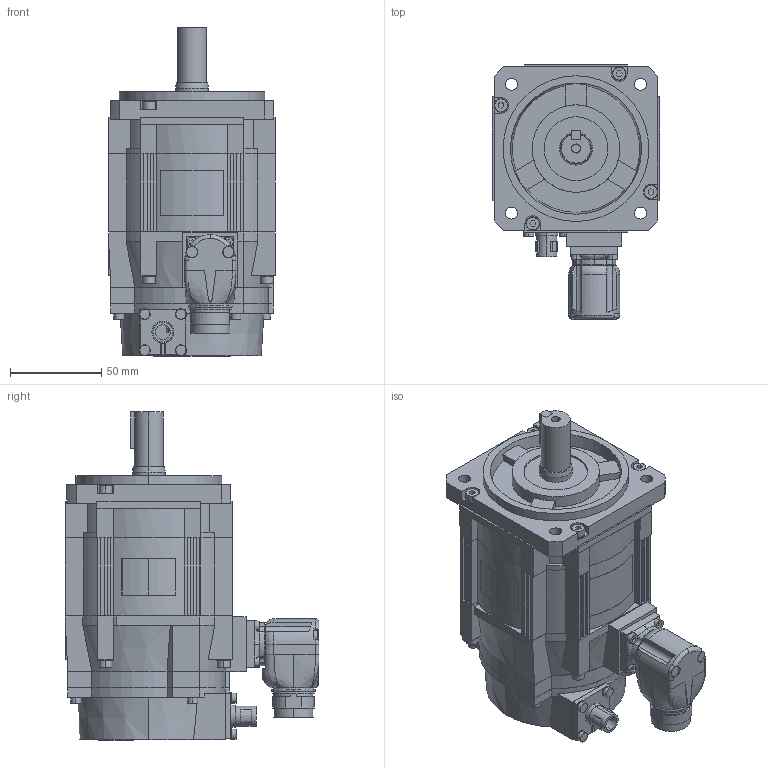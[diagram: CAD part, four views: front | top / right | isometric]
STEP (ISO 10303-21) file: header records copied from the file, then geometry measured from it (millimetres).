
FILE_DESCRIPTION (( 'STEP AP203' ), '1' );
FILE_NAME ('sgm7g_05d_r6f.STEP', '2016-08-20T16:48:33', ( '安川電機' ), ( 'Yaskawa' ), 'SwSTEP 2.0', 'SolidWorks 2006303', '' );
FILE_SCHEMA (( 'CONFIG_CONTROL_DESIGN' ));
Length unit declared in the file: millimetre
Products named in the file (4): sgm7g_05d_r6f_connector; sgm7g_05d_r6f; sgm7g_05d_r6f_base; sgm7g_05d_r6f_key
Assembly tree (3 placements, depth 2):
  sgm7g_05d_r6f
    sgm7g_05d_r6f_key
    sgm7g_05d_r6f_connector
    sgm7g_05d_r6f_base
Bounding box: 92 x 139.4 x 180.1 mm (x, y, z)
Volume: 985686.9 mm3; surface area: 95239.7 mm2
Topology: 3 solids, 3 shells, 806 faces, 2033 edges, 1309 vertices
Faces by surface type: plane 544, cylinder 212, cone 21, bspline 20, torus 9
Entity records: 25747 total; most frequent: CARTESIAN_POINT 5763, DIRECTION 4063, ORIENTED_EDGE 4062, EDGE_CURVE 2031, LINE 1365, VECTOR 1365, AXIS2_PLACEMENT_3D 1349, VERTEX_POINT 1309
